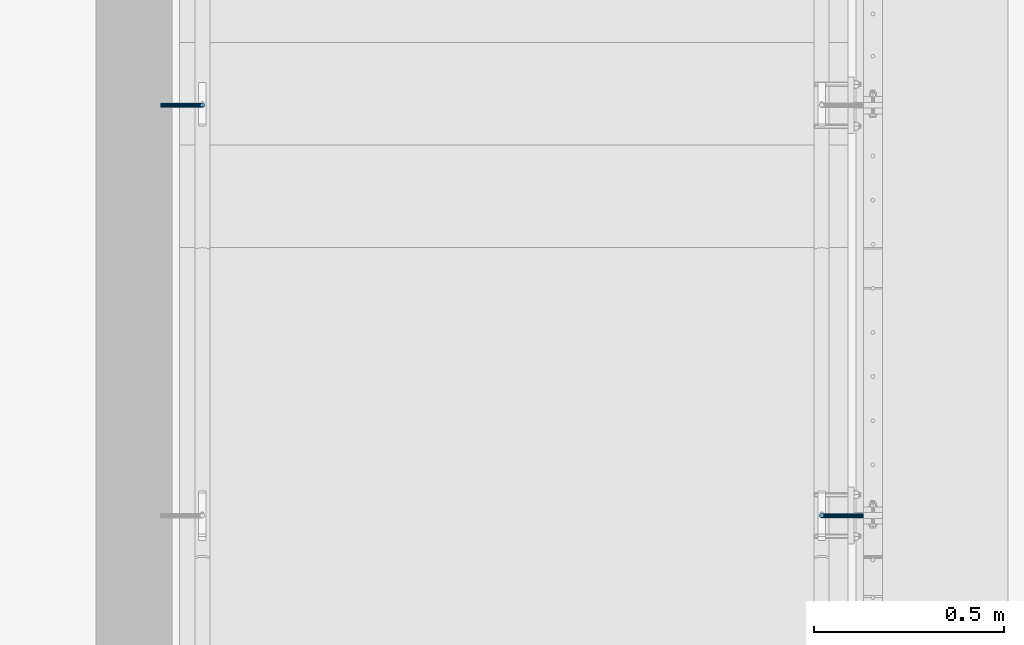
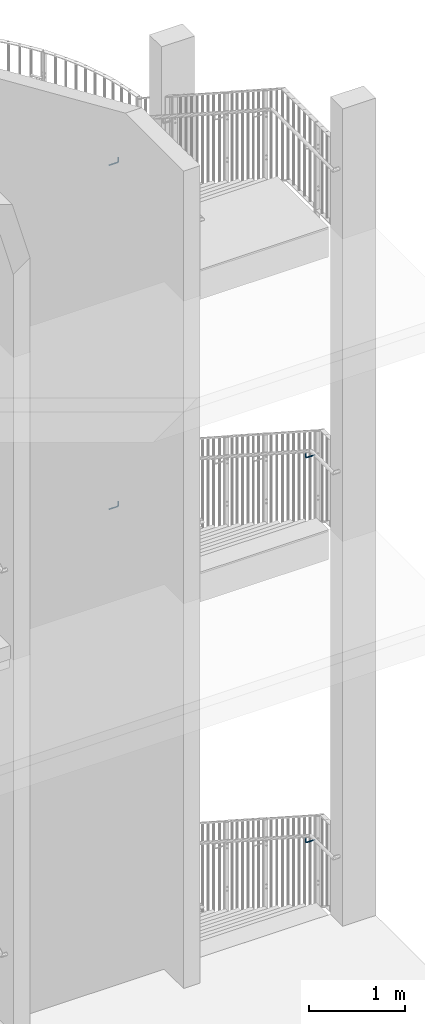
# One storey, part 134 of 296: 4 beams.
"""IFC2X3 building model written with IfcOpenShell, lengths in millimetres."""

from ifc_helpers import new_model, entity, si_unit, converted_unit, origin_with_axes, place, context, project, spatial, faceted_brep, material, element, save


model = new_model("IFC2X3")

# Units and contexts
model_context = context("Model", 3, precision=1e-09, world=origin_with_axes())
ifc_project = project(units=[si_unit("LENGTHUNIT", "METRE", prefix="MILLI"), si_unit("AREAUNIT", "SQUARE_METRE"), si_unit("VOLUMEUNIT", "CUBIC_METRE"), converted_unit("PLANEANGLEUNIT", "DEGREE", entity("IfcPlaneAngleMeasure", 0.01745329), si_unit("PLANEANGLEUNIT", "RADIAN"), dimensions=[0, 0, 0, 0, 0, 0, 0])], contexts=[model_context])

# Site, building, storey
site_placement = place(None, origin_with_axes())
site = spatial("IfcSite", under=ifc_project, at=site_placement, Name="TZD-S?d | Treppenhausgel?nder", CompositionType="ELEMENT")
building_placement = place(site_placement, origin_with_axes())
building = spatial("IfcBuilding", under=site, at=building_placement, Name="Struktur 1", CompositionType="ELEMENT")
storey_placement = place(building_placement, origin_with_axes())
storey = spatial("IfcBuildingStorey", under=building, at=storey_placement, Name="Default Storey", CompositionType="ELEMENT", Elevation=0.0)

# Beams
ifc_material = material(Name="S235JR")
beam_1_placement = place(None, origin_with_axes())
element("IfcBeam", 1, at=beam_1_placement, inside=storey, material=ifc_material, Name="-", ObjectType="-", context=model_context, shape_type="Brep", body=[
    faceted_brep([(5763.105419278, -3420.00183956, 10584.336971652), (5756.892580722, -3420.00183956, 10584.336971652), (5757.702899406, -3420.543277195, 10584.336971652), (5759.999, -3421.0, 10584.336971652), (5762.295100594, -3420.543277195, 10584.336971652), (5755.756359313, -3419.242640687, 10583.845267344), (5754.455722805, -3417.296100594, 10582.584567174), (5754.455722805, -3417.296100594, 10539.336971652), (5755.756359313, -3419.242640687, 10539.336971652), (5757.702899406, -3420.543277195, 10539.336971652), (5759.999, -3421.0, 10539.336971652), (5762.295100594, -3420.543277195, 10539.336971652), (5764.241640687, -3419.242640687, 10583.845267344), (5764.241640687, -3419.242640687, 10539.336971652), (5765.542277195, -3417.296100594, 10582.584567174), (5765.542277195, -3417.296100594, 10539.336971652), (5765.999, -3415.0, 10581.097469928), (5765.999, -3415.0, 10539.336971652), (5765.542277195, -3412.703899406, 10579.610372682), (5765.542277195, -3412.703899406, 10539.336971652), (5764.241640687, -3410.757359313, 10578.349672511), (5764.241640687, -3410.757359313, 10539.336971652), (5762.295100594, -3409.456722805, 10577.507299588), (5762.295100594, -3409.456722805, 10539.336971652), (5759.999, -3409.0, 10577.211497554), (5759.999, -3409.0, 10539.336971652), (5757.702899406, -3409.456722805, 10577.507299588), (5757.702899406, -3409.456722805, 10539.336971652), (5755.756359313, -3410.757359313, 10578.349672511), (5755.756359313, -3410.757359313, 10539.336971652), (5754.455722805, -3412.703899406, 10579.610372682), (5754.455722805, -3412.703899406, 10539.336971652), (5753.999, -3415.0, 10581.097469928), (5753.999, -3415.0, 10539.336971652), (5869.999, -3419.242640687, 10515.094330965), (5869.999, -3417.296100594, 10513.793694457), (5869.999, -3415.0, 10513.336971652), (5869.999, -3412.703899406, 10513.793694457), (5869.999, -3410.757359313, 10515.094330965), (5869.999, -3409.456722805, 10517.040871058), (5869.999, -3409.0, 10519.336971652), (5869.999, -3409.456722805, 10521.633072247), (5869.999, -3410.757359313, 10523.57961234), (5869.999, -3412.703899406, 10524.880248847), (5869.999, -3415.0, 10525.336971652), (5869.999, -3417.296100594, 10524.880248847), (5869.999, -3419.242640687, 10523.57961234), (5869.999, -3420.543277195, 10521.633072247), (5869.999, -3421.0, 10519.336971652), (5869.999, -3420.543277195, 10517.040871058), (5756.400089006, -3417.296100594, 10529.561982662), (5757.601720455, -3419.242640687, 10530.059714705), (5759.400089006, -3420.543277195, 10530.804623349), (5761.52140935, -3421.0, 10531.683303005), (5763.642729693, -3420.543277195, 10532.561982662), (5765.441098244, -3419.242640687, 10533.306891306), (5766.642729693, -3417.296100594, 10533.804623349), (5767.064686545, -3415.0, 10533.979403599), (5766.642729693, -3412.703899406, 10533.804623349), (5765.441098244, -3410.757359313, 10533.306891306), (5763.642729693, -3409.456722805, 10532.561982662), (5761.52140935, -3409.0, 10531.683303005), (5759.400089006, -3409.456722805, 10530.804623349), (5757.601720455, -3410.757359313, 10530.059714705), (5756.400089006, -3412.703899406, 10529.561982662), (5755.978132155, -3415.0, 10529.387202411), (5761.937175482, -3417.296100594, 10521.275147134), (5762.856864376, -3419.242640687, 10522.194836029), (5764.233276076, -3420.543277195, 10523.571247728), (5765.856864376, -3421.0, 10525.194836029), (5767.480452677, -3420.543277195, 10526.818424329), (5768.856864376, -3419.242640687, 10528.194836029), (5769.776553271, -3417.296100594, 10529.114524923), (5770.099505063, -3415.0, 10529.437476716), (5769.776553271, -3412.703899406, 10529.114524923), (5768.856864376, -3410.757359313, 10528.194836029), (5767.480452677, -3409.456722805, 10526.818424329), (5765.856864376, -3409.0, 10525.194836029), (5764.233276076, -3409.456722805, 10523.571247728), (5762.856864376, -3410.757359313, 10522.194836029), (5761.937175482, -3412.703899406, 10521.275147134), (5761.614223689, -3415.0, 10520.952195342), (5770.224011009, -3417.296100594, 10515.738060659), (5770.721743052, -3419.242640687, 10516.939692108), (5771.466651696, -3420.543277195, 10518.738060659), (5772.345331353, -3421.0, 10520.859381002), (5773.224011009, -3420.543277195, 10522.980701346), (5773.968919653, -3419.242640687, 10524.779069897), (5774.466651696, -3417.296100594, 10525.980701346), (5774.641431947, -3415.0, 10526.402658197), (5774.466651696, -3412.703899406, 10525.980701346), (5773.968919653, -3410.757359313, 10524.779069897), (5773.224011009, -3409.456722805, 10522.980701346), (5772.345331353, -3409.0, 10520.859381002), (5771.466651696, -3409.456722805, 10518.738060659), (5770.721743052, -3410.757359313, 10516.939692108), (5770.224011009, -3412.703899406, 10515.738060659), (5770.049230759, -3415.0, 10515.316103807), (5779.999, -3417.296100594, 10513.793694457), (5779.999, -3419.242640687, 10515.094330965), (5779.999, -3420.543277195, 10517.040871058), (5779.999, -3421.0, 10519.336971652), (5779.999, -3420.543277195, 10521.633072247), (5779.999, -3419.242640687, 10523.57961234), (5779.999, -3417.296100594, 10524.880248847), (5779.999, -3415.0, 10525.336971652), (5779.999, -3412.703899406, 10524.880248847), (5779.999, -3410.757359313, 10523.57961234), (5779.999, -3409.456722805, 10521.633072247), (5779.999, -3409.0, 10519.336971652), (5779.999, -3409.456722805, 10517.040871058), (5779.999, -3410.757359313, 10515.094330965), (5779.999, -3412.703899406, 10513.793694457), (5779.999, -3415.0, 10513.336971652)], [[[0, 1, 2, 3, 4]], [[5, 6, 7, 8]], [[1, 5, 8, 9, 2]], [[3, 2, 9, 10]], [[4, 3, 10, 11]], [[12, 0, 4, 11, 13]], [[14, 12, 13, 15]], [[16, 14, 15, 17]], [[18, 16, 17, 19]], [[20, 18, 19, 21]], [[22, 20, 21, 23]], [[24, 22, 23, 25]], [[26, 24, 25, 27]], [[28, 26, 27, 29]], [[30, 28, 29, 31]], [[32, 30, 31, 33]], [[6, 32, 33, 7]], [[14, 16, 18, 20, 22, 24, 26, 28, 30, 32, 6, 5, 1, 0, 12]], [[34, 35, 36, 37, 38, 39, 40, 41, 42, 43, 44, 45, 46, 47, 48, 49]], [[8, 7, 50, 51]], [[9, 8, 51, 52]], [[10, 9, 52, 53]], [[11, 10, 53, 54]], [[13, 11, 54, 55]], [[15, 13, 55, 56]], [[17, 15, 56, 57]], [[19, 17, 57, 58]], [[21, 19, 58, 59]], [[23, 21, 59, 60]], [[25, 23, 60, 61]], [[27, 25, 61, 62]], [[29, 27, 62, 63]], [[31, 29, 63, 64]], [[33, 31, 64, 65]], [[7, 33, 65, 50]], [[51, 50, 66, 67]], [[52, 51, 67, 68]], [[53, 52, 68, 69]], [[54, 53, 69, 70]], [[55, 54, 70, 71]], [[56, 55, 71, 72]], [[57, 56, 72, 73]], [[58, 57, 73, 74]], [[59, 58, 74, 75]], [[60, 59, 75, 76]], [[61, 60, 76, 77]], [[62, 61, 77, 78]], [[63, 62, 78, 79]], [[64, 63, 79, 80]], [[65, 64, 80, 81]], [[50, 65, 81, 66]], [[67, 66, 82, 83]], [[68, 67, 83, 84]], [[69, 68, 84, 85]], [[70, 69, 85, 86]], [[71, 70, 86, 87]], [[72, 71, 87, 88]], [[73, 72, 88, 89]], [[74, 73, 89, 90]], [[75, 74, 90, 91]], [[76, 75, 91, 92]], [[77, 76, 92, 93]], [[78, 77, 93, 94]], [[79, 78, 94, 95]], [[80, 79, 95, 96]], [[81, 80, 96, 97]], [[66, 81, 97, 82]], [[83, 82, 98, 99]], [[84, 83, 99, 100]], [[85, 84, 100, 101]], [[86, 85, 101, 102]], [[87, 86, 102, 103]], [[88, 87, 103, 104]], [[89, 88, 104, 105]], [[90, 89, 105, 106]], [[91, 90, 106, 107]], [[92, 91, 107, 108]], [[93, 92, 108, 109]], [[94, 93, 109, 110]], [[95, 94, 110, 111]], [[96, 95, 111, 112]], [[97, 96, 112, 113]], [[82, 97, 113, 98]], [[99, 98, 35, 34]], [[100, 99, 34, 49]], [[101, 100, 49, 48]], [[102, 101, 48, 47]], [[103, 102, 47, 46]], [[104, 103, 46, 45]], [[105, 104, 45, 44]], [[106, 105, 44, 43]], [[107, 106, 43, 42]], [[108, 107, 42, 41]], [[109, 108, 41, 40]], [[110, 109, 40, 39]], [[111, 110, 39, 38]], [[112, 111, 38, 37]], [[113, 112, 37, 36]], [[98, 113, 36, 35]]]),
])
beam_2_placement = place(None, origin_with_axes())
element("IfcBeam", 2, at=beam_2_placement, inside=storey, material=ifc_material, Name="-", ObjectType="-", context=model_context, shape_type="Brep", body=[
    faceted_brep([(5763.105415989, -3420.001841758, 5687.708729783), (5756.892584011, -3420.001841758, 5687.708729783), (5757.702899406, -3420.543277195, 5687.708729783), (5759.999, -3421.0, 5687.708729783), (5762.295100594, -3420.543277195, 5687.708729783), (5755.756359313, -3419.242640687, 5687.217856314), (5754.455722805, -3417.296100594, 5685.959290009), (5754.455722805, -3417.296100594, 5642.708729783), (5755.756359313, -3419.242640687, 5642.708729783), (5757.702899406, -3420.543277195, 5642.708729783), (5759.999, -3421.0, 5642.708729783), (5762.295100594, -3420.543277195, 5642.708729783), (5764.241640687, -3419.242640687, 5687.217856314), (5764.241640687, -3419.242640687, 5642.708729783), (5765.542277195, -3417.296100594, 5685.959290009), (5765.542277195, -3417.296100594, 5642.708729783), (5765.999, -3415.0, 5684.474709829), (5765.999, -3415.0, 5642.708729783), (5765.542277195, -3412.703899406, 5682.990129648), (5765.542277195, -3412.703899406, 5642.708729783), (5764.241640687, -3410.757359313, 5681.731563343), (5764.241640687, -3410.757359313, 5642.708729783), (5762.295100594, -3409.456722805, 5680.890616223), (5762.295100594, -3409.456722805, 5642.708729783), (5759.999, -3409.0, 5680.595314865), (5759.999, -3409.0, 5642.708729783), (5757.702899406, -3409.456722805, 5680.890616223), (5757.702899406, -3409.456722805, 5642.708729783), (5755.756359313, -3410.757359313, 5681.731563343), (5755.756359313, -3410.757359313, 5642.708729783), (5754.455722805, -3412.703899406, 5682.990129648), (5754.455722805, -3412.703899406, 5642.708729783), (5753.999, -3415.0, 5684.474709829), (5753.999, -3415.0, 5642.708729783), (5869.999, -3419.242640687, 5618.466089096), (5869.999, -3417.296100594, 5617.165452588), (5869.999, -3415.0, 5616.708729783), (5869.999, -3412.703899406, 5617.165452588), (5869.999, -3410.757359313, 5618.466089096), (5869.999, -3409.456722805, 5620.412629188), (5869.999, -3409.0, 5622.708729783), (5869.999, -3409.456722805, 5625.004830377), (5869.999, -3410.757359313, 5626.95137047), (5869.999, -3412.703899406, 5628.252006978), (5869.999, -3415.0, 5628.708729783), (5869.999, -3417.296100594, 5628.252006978), (5869.999, -3419.242640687, 5626.95137047), (5869.999, -3420.543277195, 5625.004830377), (5869.999, -3421.0, 5622.708729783), (5869.999, -3420.543277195, 5620.412629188), (5756.400089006, -3417.296100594, 5632.933740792), (5757.601720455, -3419.242640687, 5633.431472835), (5759.400089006, -3420.543277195, 5634.176381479), (5761.52140935, -3421.0, 5635.055061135), (5763.642729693, -3420.543277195, 5635.933740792), (5765.441098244, -3419.242640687, 5636.678649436), (5766.642729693, -3417.296100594, 5637.176381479), (5767.064686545, -3415.0, 5637.35116173), (5766.642729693, -3412.703899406, 5637.176381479), (5765.441098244, -3410.757359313, 5636.678649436), (5763.642729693, -3409.456722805, 5635.933740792), (5761.52140935, -3409.0, 5635.055061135), (5759.400089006, -3409.456722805, 5634.176381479), (5757.601720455, -3410.757359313, 5633.431472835), (5756.400089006, -3412.703899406, 5632.933740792), (5755.978132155, -3415.0, 5632.758960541), (5761.937175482, -3417.296100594, 5624.646905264), (5762.856864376, -3419.242640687, 5625.566594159), (5764.233276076, -3420.543277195, 5626.943005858), (5765.856864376, -3421.0, 5628.566594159), (5767.480452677, -3420.543277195, 5630.190182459), (5768.856864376, -3419.242640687, 5631.566594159), (5769.776553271, -3417.296100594, 5632.486283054), (5770.099505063, -3415.0, 5632.809234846), (5769.776553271, -3412.703899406, 5632.486283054), (5768.856864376, -3410.757359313, 5631.566594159), (5767.480452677, -3409.456722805, 5630.190182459), (5765.856864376, -3409.0, 5628.566594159), (5764.233276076, -3409.456722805, 5626.943005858), (5762.856864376, -3410.757359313, 5625.566594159), (5761.937175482, -3412.703899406, 5624.646905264), (5761.614223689, -3415.0, 5624.323953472), (5770.224011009, -3417.296100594, 5619.109818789), (5770.721743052, -3419.242640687, 5620.311450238), (5771.466651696, -3420.543277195, 5622.109818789), (5772.345331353, -3421.0, 5624.231139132), (5773.224011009, -3420.543277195, 5626.352459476), (5773.968919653, -3419.242640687, 5628.150828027), (5774.466651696, -3417.296100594, 5629.352459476), (5774.641431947, -3415.0, 5629.774416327), (5774.466651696, -3412.703899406, 5629.352459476), (5773.968919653, -3410.757359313, 5628.150828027), (5773.224011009, -3409.456722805, 5626.352459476), (5772.345331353, -3409.0, 5624.231139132), (5771.466651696, -3409.456722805, 5622.109818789), (5770.721743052, -3410.757359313, 5620.311450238), (5770.224011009, -3412.703899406, 5619.109818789), (5770.049230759, -3415.0, 5618.687861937), (5779.999, -3417.296100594, 5617.165452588), (5779.999, -3419.242640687, 5618.466089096), (5779.999, -3420.543277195, 5620.412629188), (5779.999, -3421.0, 5622.708729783), (5779.999, -3420.543277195, 5625.004830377), (5779.999, -3419.242640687, 5626.95137047), (5779.999, -3417.296100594, 5628.252006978), (5779.999, -3415.0, 5628.708729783), (5779.999, -3412.703899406, 5628.252006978), (5779.999, -3410.757359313, 5626.95137047), (5779.999, -3409.456722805, 5625.004830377), (5779.999, -3409.0, 5622.708729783), (5779.999, -3409.456722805, 5620.412629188), (5779.999, -3410.757359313, 5618.466089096), (5779.999, -3412.703899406, 5617.165452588), (5779.999, -3415.0, 5616.708729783)], [[[0, 1, 2, 3, 4]], [[5, 6, 7, 8]], [[1, 5, 8, 9, 2]], [[3, 2, 9, 10]], [[4, 3, 10, 11]], [[12, 0, 4, 11, 13]], [[14, 12, 13, 15]], [[16, 14, 15, 17]], [[18, 16, 17, 19]], [[20, 18, 19, 21]], [[22, 20, 21, 23]], [[24, 22, 23, 25]], [[26, 24, 25, 27]], [[28, 26, 27, 29]], [[30, 28, 29, 31]], [[32, 30, 31, 33]], [[6, 32, 33, 7]], [[14, 16, 18, 20, 22, 24, 26, 28, 30, 32, 6, 5, 1, 0, 12]], [[34, 35, 36, 37, 38, 39, 40, 41, 42, 43, 44, 45, 46, 47, 48, 49]], [[8, 7, 50, 51]], [[9, 8, 51, 52]], [[10, 9, 52, 53]], [[11, 10, 53, 54]], [[13, 11, 54, 55]], [[15, 13, 55, 56]], [[17, 15, 56, 57]], [[19, 17, 57, 58]], [[21, 19, 58, 59]], [[23, 21, 59, 60]], [[25, 23, 60, 61]], [[27, 25, 61, 62]], [[29, 27, 62, 63]], [[31, 29, 63, 64]], [[33, 31, 64, 65]], [[7, 33, 65, 50]], [[51, 50, 66, 67]], [[52, 51, 67, 68]], [[53, 52, 68, 69]], [[54, 53, 69, 70]], [[55, 54, 70, 71]], [[56, 55, 71, 72]], [[57, 56, 72, 73]], [[58, 57, 73, 74]], [[59, 58, 74, 75]], [[60, 59, 75, 76]], [[61, 60, 76, 77]], [[62, 61, 77, 78]], [[63, 62, 78, 79]], [[64, 63, 79, 80]], [[65, 64, 80, 81]], [[50, 65, 81, 66]], [[67, 66, 82, 83]], [[68, 67, 83, 84]], [[69, 68, 84, 85]], [[70, 69, 85, 86]], [[71, 70, 86, 87]], [[72, 71, 87, 88]], [[73, 72, 88, 89]], [[74, 73, 89, 90]], [[75, 74, 90, 91]], [[76, 75, 91, 92]], [[77, 76, 92, 93]], [[78, 77, 93, 94]], [[79, 78, 94, 95]], [[80, 79, 95, 96]], [[81, 80, 96, 97]], [[66, 81, 97, 82]], [[83, 82, 98, 99]], [[84, 83, 99, 100]], [[85, 84, 100, 101]], [[86, 85, 101, 102]], [[87, 86, 102, 103]], [[88, 87, 103, 104]], [[89, 88, 104, 105]], [[90, 89, 105, 106]], [[91, 90, 106, 107]], [[92, 91, 107, 108]], [[93, 92, 108, 109]], [[94, 93, 109, 110]], [[95, 94, 110, 111]], [[96, 95, 111, 112]], [[97, 96, 112, 113]], [[82, 97, 113, 98]], [[99, 98, 35, 34]], [[100, 99, 34, 49]], [[101, 100, 49, 48]], [[102, 101, 48, 47]], [[103, 102, 47, 46]], [[104, 103, 46, 45]], [[105, 104, 45, 44]], [[106, 105, 44, 43]], [[107, 106, 43, 42]], [[108, 107, 42, 41]], [[109, 108, 41, 40]], [[110, 109, 40, 39]], [[111, 110, 39, 38]], [[112, 111, 38, 37]], [[113, 112, 37, 36]], [[98, 113, 36, 35]]]),
])
beam_3_placement = place(None, origin_with_axes())
element("IfcBeam", 3, at=beam_3_placement, inside=storey, material=ifc_material, Name="-", ObjectType="-", context=model_context, shape_type="Brep", body=[
    faceted_brep([(4133.10541862, -2340.00184, 14262.792547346), (4126.89258138, -2340.00184, 14262.792547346), (4127.702899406, -2340.543277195, 14262.792547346), (4129.999, -2341.0, 14262.792547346), (4132.295100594, -2340.543277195, 14262.792547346), (4135.542277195, -2337.296100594, 14261.040736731), (4134.241640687, -2339.242640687, 14262.301009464), (4134.241640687, -2339.242640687, 14217.792547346), (4135.542277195, -2337.296100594, 14217.792547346), (4132.295100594, -2340.543277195, 14217.792547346), (4129.999, -2341.0, 14217.792547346), (4127.702899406, -2340.543277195, 14217.792547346), (4125.756359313, -2339.242640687, 14262.301009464), (4125.756359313, -2339.242640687, 14217.792547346), (4124.455722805, -2337.296100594, 14261.040736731), (4124.455722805, -2337.296100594, 14217.792547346), (4123.999, -2335.0, 14259.554143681), (4123.999, -2335.0, 14217.792547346), (4124.455722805, -2332.703899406, 14258.067550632), (4124.455722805, -2332.703899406, 14217.792547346), (4125.756359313, -2330.757359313, 14256.807277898), (4125.756359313, -2330.757359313, 14217.792547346), (4127.702899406, -2329.456722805, 14255.96519058), (4127.702899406, -2329.456722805, 14217.792547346), (4129.999, -2329.0, 14255.669488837), (4129.999, -2329.0, 14217.792547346), (4132.295100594, -2329.456722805, 14255.96519058), (4132.295100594, -2329.456722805, 14217.792547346), (4134.241640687, -2330.757359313, 14256.807277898), (4134.241640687, -2330.757359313, 14217.792547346), (4135.542277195, -2332.703899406, 14258.067550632), (4135.542277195, -2332.703899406, 14217.792547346), (4135.999, -2335.0, 14259.554143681), (4135.999, -2335.0, 14217.792547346), (4019.999, -2337.296100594, 14192.249270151), (4019.999, -2339.242640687, 14193.549906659), (4019.999, -2340.543277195, 14195.496446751), (4019.999, -2341.0, 14197.792547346), (4019.999, -2340.543277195, 14200.08864794), (4019.999, -2339.242640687, 14202.035188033), (4019.999, -2337.296100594, 14203.335824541), (4019.999, -2335.0, 14203.792547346), (4019.999, -2332.703899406, 14203.335824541), (4019.999, -2330.757359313, 14202.035188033), (4019.999, -2329.456722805, 14200.08864794), (4019.999, -2329.0, 14197.792547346), (4019.999, -2329.456722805, 14195.496446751), (4019.999, -2330.757359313, 14193.549906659), (4019.999, -2332.703899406, 14192.249270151), (4019.999, -2335.0, 14191.792547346), (4132.396279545, -2339.242640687, 14208.515290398), (4133.597910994, -2337.296100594, 14208.017558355), (4130.597910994, -2340.543277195, 14209.260199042), (4128.47659065, -2341.0, 14210.138878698), (4126.355270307, -2340.543277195, 14211.017558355), (4124.556901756, -2339.242640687, 14211.762466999), (4123.355270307, -2337.296100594, 14212.260199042), (4122.933313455, -2335.0, 14212.434979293), (4123.355270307, -2332.703899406, 14212.260199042), (4124.556901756, -2330.757359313, 14211.762466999), (4126.355270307, -2329.456722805, 14211.017558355), (4128.47659065, -2329.0, 14210.138878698), (4130.597910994, -2329.456722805, 14209.260199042), (4132.396279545, -2330.757359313, 14208.515290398), (4133.597910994, -2332.703899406, 14208.017558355), (4134.019867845, -2335.0, 14207.842778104), (4127.141135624, -2339.242640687, 14200.650411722), (4128.060824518, -2337.296100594, 14199.730722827), (4125.764723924, -2340.543277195, 14202.026823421), (4124.141135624, -2341.0, 14203.650411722), (4122.517547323, -2340.543277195, 14205.274000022), (4121.141135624, -2339.242640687, 14206.650411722), (4120.221446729, -2337.296100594, 14207.570100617), (4119.898494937, -2335.0, 14207.893052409), (4120.221446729, -2332.703899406, 14207.570100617), (4121.141135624, -2330.757359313, 14206.650411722), (4122.517547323, -2329.456722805, 14205.274000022), (4124.141135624, -2329.0, 14203.650411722), (4125.764723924, -2329.456722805, 14202.026823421), (4127.141135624, -2330.757359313, 14200.650411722), (4128.060824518, -2332.703899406, 14199.730722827), (4128.383776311, -2335.0, 14199.407771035), (4119.276256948, -2339.242640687, 14195.395267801), (4119.773988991, -2337.296100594, 14194.193636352), (4118.531348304, -2340.543277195, 14197.193636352), (4117.652668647, -2341.0, 14199.314956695), (4116.773988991, -2340.543277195, 14201.436277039), (4116.029080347, -2339.242640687, 14203.23464559), (4115.531348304, -2337.296100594, 14204.436277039), (4115.356568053, -2335.0, 14204.858233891), (4115.531348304, -2332.703899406, 14204.436277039), (4116.029080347, -2330.757359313, 14203.23464559), (4116.773988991, -2329.456722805, 14201.436277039), (4117.652668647, -2329.0, 14199.314956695), (4118.531348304, -2329.456722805, 14197.193636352), (4119.276256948, -2330.757359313, 14195.395267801), (4119.773988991, -2332.703899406, 14194.193636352), (4119.948769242, -2335.0, 14193.7716795), (4109.999, -2339.242640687, 14193.549906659), (4109.999, -2337.296100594, 14192.249270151), (4109.999, -2340.543277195, 14195.496446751), (4109.999, -2341.0, 14197.792547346), (4109.999, -2340.543277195, 14200.08864794), (4109.999, -2339.242640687, 14202.035188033), (4109.999, -2337.296100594, 14203.335824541), (4109.999, -2335.0, 14203.792547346), (4109.999, -2332.703899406, 14203.335824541), (4109.999, -2330.757359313, 14202.035188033), (4109.999, -2329.456722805, 14200.08864794), (4109.999, -2329.0, 14197.792547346), (4109.999, -2329.456722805, 14195.496446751), (4109.999, -2330.757359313, 14193.549906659), (4109.999, -2332.703899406, 14192.249270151), (4109.999, -2335.0, 14191.792547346)], [[[0, 1, 2, 3, 4]], [[5, 6, 7, 8]], [[6, 0, 4, 9, 7]], [[4, 3, 10, 9]], [[3, 2, 11, 10]], [[1, 12, 13, 11, 2]], [[12, 14, 15, 13]], [[14, 16, 17, 15]], [[16, 18, 19, 17]], [[18, 20, 21, 19]], [[20, 22, 23, 21]], [[22, 24, 25, 23]], [[24, 26, 27, 25]], [[26, 28, 29, 27]], [[28, 30, 31, 29]], [[30, 32, 33, 31]], [[32, 5, 8, 33]], [[16, 14, 12, 1, 0, 6, 5, 32, 30, 28, 26, 24, 22, 20, 18]], [[34, 35, 36, 37, 38, 39, 40, 41, 42, 43, 44, 45, 46, 47, 48, 49]], [[8, 7, 50, 51]], [[7, 9, 52, 50]], [[9, 10, 53, 52]], [[10, 11, 54, 53]], [[11, 13, 55, 54]], [[13, 15, 56, 55]], [[15, 17, 57, 56]], [[17, 19, 58, 57]], [[19, 21, 59, 58]], [[21, 23, 60, 59]], [[23, 25, 61, 60]], [[25, 27, 62, 61]], [[27, 29, 63, 62]], [[29, 31, 64, 63]], [[31, 33, 65, 64]], [[33, 8, 51, 65]], [[51, 50, 66, 67]], [[50, 52, 68, 66]], [[52, 53, 69, 68]], [[53, 54, 70, 69]], [[54, 55, 71, 70]], [[55, 56, 72, 71]], [[56, 57, 73, 72]], [[57, 58, 74, 73]], [[58, 59, 75, 74]], [[59, 60, 76, 75]], [[60, 61, 77, 76]], [[61, 62, 78, 77]], [[62, 63, 79, 78]], [[63, 64, 80, 79]], [[64, 65, 81, 80]], [[65, 51, 67, 81]], [[67, 66, 82, 83]], [[66, 68, 84, 82]], [[68, 69, 85, 84]], [[69, 70, 86, 85]], [[70, 71, 87, 86]], [[71, 72, 88, 87]], [[72, 73, 89, 88]], [[73, 74, 90, 89]], [[74, 75, 91, 90]], [[75, 76, 92, 91]], [[76, 77, 93, 92]], [[77, 78, 94, 93]], [[78, 79, 95, 94]], [[79, 80, 96, 95]], [[80, 81, 97, 96]], [[81, 67, 83, 97]], [[83, 82, 98, 99]], [[82, 84, 100, 98]], [[84, 85, 101, 100]], [[85, 86, 102, 101]], [[86, 87, 103, 102]], [[87, 88, 104, 103]], [[88, 89, 105, 104]], [[89, 90, 106, 105]], [[90, 91, 107, 106]], [[91, 92, 108, 107]], [[92, 93, 109, 108]], [[93, 94, 110, 109]], [[94, 95, 111, 110]], [[95, 96, 112, 111]], [[96, 97, 113, 112]], [[97, 83, 99, 113]], [[99, 98, 35, 34]], [[98, 100, 36, 35]], [[100, 101, 37, 36]], [[101, 102, 38, 37]], [[102, 103, 39, 38]], [[103, 104, 40, 39]], [[104, 105, 41, 40]], [[105, 106, 42, 41]], [[106, 107, 43, 42]], [[107, 108, 44, 43]], [[108, 109, 45, 44]], [[109, 110, 46, 45]], [[110, 111, 47, 46]], [[111, 112, 48, 47]], [[112, 113, 49, 48]], [[113, 99, 34, 49]]]),
])
beam_4_placement = place(None, origin_with_axes())
element("IfcBeam", 4, at=beam_4_placement, inside=storey, material=ifc_material, Name="-", ObjectType="-", context=model_context, shape_type="Brep", body=[
    faceted_brep([(4133.105419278, -2340.00183956, 9884.861944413), (4126.892580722, -2340.00183956, 9884.861944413), (4127.702899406, -2340.543277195, 9884.861944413), (4129.999, -2341.0, 9884.861944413), (4132.295100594, -2340.543277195, 9884.861944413), (4135.542277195, -2337.296100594, 9883.109539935), (4134.241640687, -2339.242640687, 9884.370240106), (4134.241640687, -2339.242640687, 9839.861944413), (4135.542277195, -2337.296100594, 9839.861944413), (4132.295100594, -2340.543277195, 9839.861944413), (4129.999, -2341.0, 9839.861944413), (4127.702899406, -2340.543277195, 9839.861944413), (4125.756359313, -2339.242640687, 9884.370240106), (4125.756359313, -2339.242640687, 9839.861944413), (4124.455722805, -2337.296100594, 9883.109539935), (4124.455722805, -2337.296100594, 9839.861944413), (4123.999, -2335.0, 9881.622442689), (4123.999, -2335.0, 9839.861944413), (4124.455722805, -2332.703899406, 9880.135345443), (4124.455722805, -2332.703899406, 9839.861944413), (4125.756359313, -2330.757359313, 9878.874645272), (4125.756359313, -2330.757359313, 9839.861944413), (4127.702899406, -2329.456722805, 9878.032272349), (4127.702899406, -2329.456722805, 9839.861944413), (4129.999, -2329.0, 9877.736470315), (4129.999, -2329.0, 9839.861944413), (4132.295100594, -2329.456722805, 9878.032272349), (4132.295100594, -2329.456722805, 9839.861944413), (4134.241640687, -2330.757359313, 9878.874645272), (4134.241640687, -2330.757359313, 9839.861944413), (4135.542277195, -2332.703899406, 9880.135345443), (4135.542277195, -2332.703899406, 9839.861944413), (4135.999, -2335.0, 9881.622442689), (4135.999, -2335.0, 9839.861944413), (4019.999, -2337.296100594, 9814.318667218), (4019.999, -2339.242640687, 9815.619303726), (4019.999, -2340.543277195, 9817.565843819), (4019.999, -2341.0, 9819.861944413), (4019.999, -2340.543277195, 9822.158045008), (4019.999, -2339.242640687, 9824.104585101), (4019.999, -2337.296100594, 9825.405221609), (4019.999, -2335.0, 9825.861944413), (4019.999, -2332.703899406, 9825.405221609), (4019.999, -2330.757359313, 9824.104585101), (4019.999, -2329.456722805, 9822.158045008), (4019.999, -2329.0, 9819.861944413), (4019.999, -2329.456722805, 9817.565843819), (4019.999, -2330.757359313, 9815.619303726), (4019.999, -2332.703899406, 9814.318667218), (4019.999, -2335.0, 9813.861944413), (4132.396279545, -2339.242640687, 9830.584687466), (4133.597910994, -2337.296100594, 9830.086955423), (4130.597910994, -2340.543277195, 9831.32959611), (4128.47659065, -2341.0, 9832.208275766), (4126.355270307, -2340.543277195, 9833.086955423), (4124.556901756, -2339.242640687, 9833.831864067), (4123.355270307, -2337.296100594, 9834.32959611), (4122.933313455, -2335.0, 9834.50437636), (4123.355270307, -2332.703899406, 9834.32959611), (4124.556901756, -2330.757359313, 9833.831864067), (4126.355270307, -2329.456722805, 9833.086955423), (4128.47659065, -2329.0, 9832.208275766), (4130.597910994, -2329.456722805, 9831.32959611), (4132.396279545, -2330.757359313, 9830.584687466), (4133.597910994, -2332.703899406, 9830.086955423), (4134.019867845, -2335.0, 9829.912175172), (4127.141135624, -2339.242640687, 9822.71980879), (4128.060824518, -2337.296100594, 9821.800119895), (4125.764723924, -2340.543277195, 9824.096220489), (4124.141135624, -2341.0, 9825.71980879), (4122.517547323, -2340.543277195, 9827.34339709), (4121.141135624, -2339.242640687, 9828.71980879), (4120.221446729, -2337.296100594, 9829.639497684), (4119.898494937, -2335.0, 9829.962449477), (4120.221446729, -2332.703899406, 9829.639497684), (4121.141135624, -2330.757359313, 9828.71980879), (4122.517547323, -2329.456722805, 9827.34339709), (4124.141135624, -2329.0, 9825.71980879), (4125.764723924, -2329.456722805, 9824.096220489), (4127.141135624, -2330.757359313, 9822.71980879), (4128.060824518, -2332.703899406, 9821.800119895), (4128.383776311, -2335.0, 9821.477168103), (4119.276256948, -2339.242640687, 9817.464664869), (4119.773988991, -2337.296100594, 9816.26303342), (4118.531348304, -2340.543277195, 9819.26303342), (4117.652668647, -2341.0, 9821.384353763), (4116.773988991, -2340.543277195, 9823.505674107), (4116.029080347, -2339.242640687, 9825.304042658), (4115.531348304, -2337.296100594, 9826.505674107), (4115.356568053, -2335.0, 9826.927630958), (4115.531348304, -2332.703899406, 9826.505674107), (4116.029080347, -2330.757359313, 9825.304042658), (4116.773988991, -2329.456722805, 9823.505674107), (4117.652668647, -2329.0, 9821.384353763), (4118.531348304, -2329.456722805, 9819.26303342), (4119.276256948, -2330.757359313, 9817.464664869), (4119.773988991, -2332.703899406, 9816.26303342), (4119.948769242, -2335.0, 9815.841076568), (4109.999, -2339.242640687, 9815.619303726), (4109.999, -2337.296100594, 9814.318667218), (4109.999, -2340.543277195, 9817.565843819), (4109.999, -2341.0, 9819.861944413), (4109.999, -2340.543277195, 9822.158045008), (4109.999, -2339.242640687, 9824.104585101), (4109.999, -2337.296100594, 9825.405221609), (4109.999, -2335.0, 9825.861944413), (4109.999, -2332.703899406, 9825.405221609), (4109.999, -2330.757359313, 9824.104585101), (4109.999, -2329.456722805, 9822.158045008), (4109.999, -2329.0, 9819.861944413), (4109.999, -2329.456722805, 9817.565843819), (4109.999, -2330.757359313, 9815.619303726), (4109.999, -2332.703899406, 9814.318667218), (4109.999, -2335.0, 9813.861944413)], [[[0, 1, 2, 3, 4]], [[5, 6, 7, 8]], [[6, 0, 4, 9, 7]], [[4, 3, 10, 9]], [[3, 2, 11, 10]], [[1, 12, 13, 11, 2]], [[12, 14, 15, 13]], [[14, 16, 17, 15]], [[16, 18, 19, 17]], [[18, 20, 21, 19]], [[20, 22, 23, 21]], [[22, 24, 25, 23]], [[24, 26, 27, 25]], [[26, 28, 29, 27]], [[28, 30, 31, 29]], [[30, 32, 33, 31]], [[32, 5, 8, 33]], [[16, 14, 12, 1, 0, 6, 5, 32, 30, 28, 26, 24, 22, 20, 18]], [[34, 35, 36, 37, 38, 39, 40, 41, 42, 43, 44, 45, 46, 47, 48, 49]], [[8, 7, 50, 51]], [[7, 9, 52, 50]], [[9, 10, 53, 52]], [[10, 11, 54, 53]], [[11, 13, 55, 54]], [[13, 15, 56, 55]], [[15, 17, 57, 56]], [[17, 19, 58, 57]], [[19, 21, 59, 58]], [[21, 23, 60, 59]], [[23, 25, 61, 60]], [[25, 27, 62, 61]], [[27, 29, 63, 62]], [[29, 31, 64, 63]], [[31, 33, 65, 64]], [[33, 8, 51, 65]], [[51, 50, 66, 67]], [[50, 52, 68, 66]], [[52, 53, 69, 68]], [[53, 54, 70, 69]], [[54, 55, 71, 70]], [[55, 56, 72, 71]], [[56, 57, 73, 72]], [[57, 58, 74, 73]], [[58, 59, 75, 74]], [[59, 60, 76, 75]], [[60, 61, 77, 76]], [[61, 62, 78, 77]], [[62, 63, 79, 78]], [[63, 64, 80, 79]], [[64, 65, 81, 80]], [[65, 51, 67, 81]], [[67, 66, 82, 83]], [[66, 68, 84, 82]], [[68, 69, 85, 84]], [[69, 70, 86, 85]], [[70, 71, 87, 86]], [[71, 72, 88, 87]], [[72, 73, 89, 88]], [[73, 74, 90, 89]], [[74, 75, 91, 90]], [[75, 76, 92, 91]], [[76, 77, 93, 92]], [[77, 78, 94, 93]], [[78, 79, 95, 94]], [[79, 80, 96, 95]], [[80, 81, 97, 96]], [[81, 67, 83, 97]], [[83, 82, 98, 99]], [[82, 84, 100, 98]], [[84, 85, 101, 100]], [[85, 86, 102, 101]], [[86, 87, 103, 102]], [[87, 88, 104, 103]], [[88, 89, 105, 104]], [[89, 90, 106, 105]], [[90, 91, 107, 106]], [[91, 92, 108, 107]], [[92, 93, 109, 108]], [[93, 94, 110, 109]], [[94, 95, 111, 110]], [[95, 96, 112, 111]], [[96, 97, 113, 112]], [[97, 83, 99, 113]], [[99, 98, 35, 34]], [[98, 100, 36, 35]], [[100, 101, 37, 36]], [[101, 102, 38, 37]], [[102, 103, 39, 38]], [[103, 104, 40, 39]], [[104, 105, 41, 40]], [[105, 106, 42, 41]], [[106, 107, 43, 42]], [[107, 108, 44, 43]], [[108, 109, 45, 44]], [[109, 110, 46, 45]], [[110, 111, 47, 46]], [[111, 112, 48, 47]], [[112, 113, 49, 48]], [[113, 99, 34, 49]]]),
])

save(model, "model.ifc")
